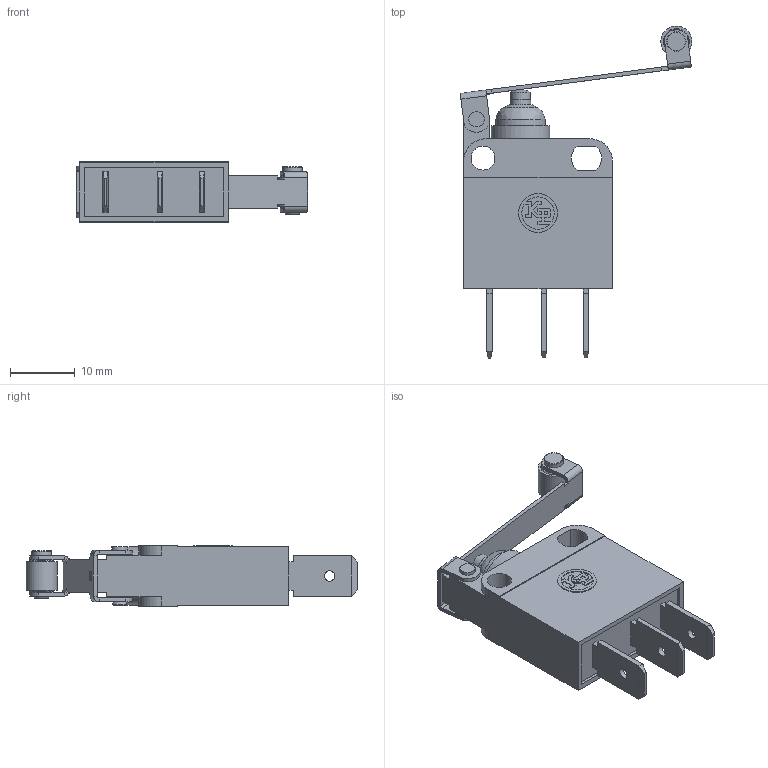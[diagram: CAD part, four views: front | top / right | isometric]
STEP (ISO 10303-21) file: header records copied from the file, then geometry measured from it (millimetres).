
FILE_DESCRIPTION(('Microrutor Subminiatura Protegido Alavanca c/ Roldana'),'2;1');
FILE_NAME('E:\WorkFolder\Bibl\3DWeb\kp_mp_mpjnf_step.stp','2019-04-23T09:24:46',('DIE'),('KAP Componentes Eletricos Ltda.'),'Autodesk Inventor 2011','Autodesk Inventor 2011','Direitos reservados. Proibido reproducao, cedencia ou revelacao de conteudo a terceiros, salvo com autorizacao.');
FILE_SCHEMA(('AUTOMOTIVE_DESIGN { 1 0 10303 214 1 1 1 1 }'));
Length unit declared in the file: millimetre
Products named in the file (1): Part6
Bounding box: 35.84 x 51.33 x 9.4 mm (x, y, z)
Volume: 5353.3 mm3; surface area: 3558.8 mm2
Topology: 1 solids, 1 shells, 215 faces, 533 edges, 339 vertices
Faces by surface type: plane 157, cylinder 40, cone 10, torus 4, bspline 3, sphere 1
Full cylindrical faces by diameter (mm): 1.6 x3, 2 x2, 2.1 x2, 2.381 x1, 3 x2, 3.2 x1, 3.7 x1, 4.8 x1, 6 x1, 7.6 x1, 9 x1
Entity records: 6408 total; most frequent: CARTESIAN_POINT 1143, DIRECTION 1009, ORIENTED_EDGE 984, EDGE_CURVE 492, VECTOR 393, LINE 393, VERTEX_POINT 329, AXIS2_PLACEMENT_3D 308
